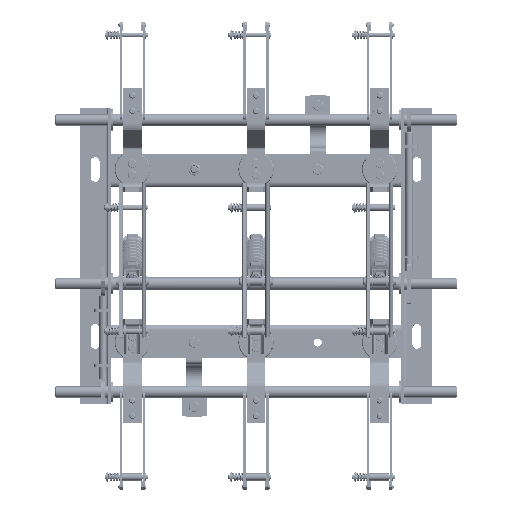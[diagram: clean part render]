
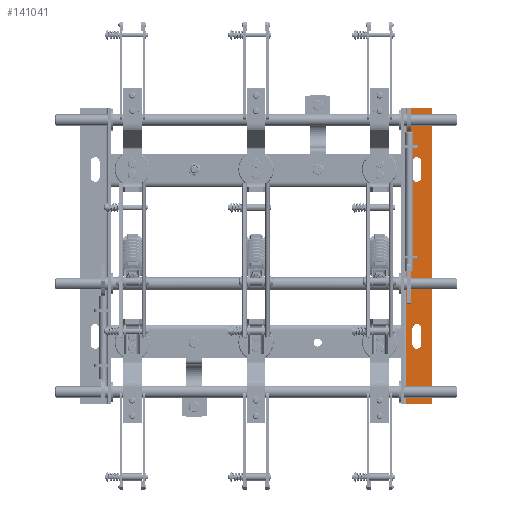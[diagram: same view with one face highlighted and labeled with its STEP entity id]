
A CAD part, top view. The second image highlights one B-rep face of the part: STEP entity #141041.
In plain terms, the highlighted planar face has unit normal (0, 0, 1).
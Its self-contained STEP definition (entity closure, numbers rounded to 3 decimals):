
#1226 = DIRECTION ( 'NONE',  ( 0., -1., 0. ) ) ;
#3660 = EDGE_CURVE ( 'NONE', #12385, #164996, #111404, .T. ) ;
#3835 = VERTEX_POINT ( 'NONE', #54979 ) ;
#4023 = DIRECTION ( 'NONE',  ( 0., 0., -1. ) ) ;
#5432 = VERTEX_POINT ( 'NONE', #128422 ) ;
#6283 = CARTESIAN_POINT ( 'NONE',  ( 261.605, 170.021, 4.004 ) ) ;
#7149 = EDGE_CURVE ( 'NONE', #61374, #93276, #169835, .T. ) ;
#7204 = DIRECTION ( 'NONE',  ( 0., 0., -1. ) ) ;
#10083 = CARTESIAN_POINT ( 'NONE',  ( 267.008, 148.003, 4.004 ) ) ;
#11485 = EDGE_LOOP ( 'NONE', ( #80760, #59271, #29826, #62548 ) ) ;
#11487 = DIRECTION ( 'NONE',  ( 0., -1., 0. ) ) ;
#12385 = VERTEX_POINT ( 'NONE', #69293 ) ;
#13760 = CARTESIAN_POINT ( 'NONE',  ( 286.208, -4.979, 4.004 ) ) ;
#15272 = VERTEX_POINT ( 'NONE', #139182 ) ;
#16227 = EDGE_CURVE ( 'NONE', #30258, #86361, #163911, .T. ) ;
#18383 = VERTEX_POINT ( 'NONE', #6283 ) ;
#20846 = EDGE_CURVE ( 'NONE', #164996, #52889, #97008, .T. ) ;
#22365 = LINE ( 'NONE', #81151, #70460 ) ;
#22393 = LINE ( 'NONE', #50694, #57897 ) ;
#25446 = LINE ( 'NONE', #107420, #159122 ) ;
#27183 = DIRECTION ( 'NONE',  ( -1., 0., 0. ) ) ;
#29826 = ORIENTED_EDGE ( 'NONE', *, *, #62565, .F. ) ;
#30258 = VERTEX_POINT ( 'NONE', #171186 ) ;
#30856 = LINE ( 'NONE', #34021, #97641 ) ;
#32546 = AXIS2_PLACEMENT_3D ( 'NONE', #153219, #73295, #166608 ) ;
#33711 = ORIENTED_EDGE ( 'NONE', *, *, #101164, .F. ) ;
#33946 = AXIS2_PLACEMENT_3D ( 'NONE', #67307, #160661, #80716 ) ;
#34021 = CARTESIAN_POINT ( 'NONE',  ( 285.008, 235.021, 4.004 ) ) ;
#34445 = EDGE_LOOP ( 'NONE', ( #133590, #157786, #109213, #44196 ) ) ;
#35788 = VECTOR ( 'NONE', #47101, 1000. ) ;
#40329 = CARTESIAN_POINT ( 'NONE',  ( 243.005, 235.021, 4.004 ) ) ;
#41682 = CARTESIAN_POINT ( 'NONE',  ( 253.008, 148.003, 4.004 ) ) ;
#42839 = EDGE_LOOP ( 'NONE', ( #96486, #111986, #150641, #33711 ) ) ;
#43366 = CARTESIAN_POINT ( 'NONE',  ( 243.005, 235.021, 4.004 ) ) ;
#44196 = ORIENTED_EDGE ( 'NONE', *, *, #129774, .T. ) ;
#44899 = VERTEX_POINT ( 'NONE', #109435 ) ;
#45198 = EDGE_CURVE ( 'NONE', #44899, #18383, #22393, .T. ) ;
#47101 = DIRECTION ( 'NONE',  ( -1., 0., 0. ) ) ;
#50514 = ORIENTED_EDGE ( 'NONE', *, *, #3660, .T. ) ;
#50694 = CARTESIAN_POINT ( 'NONE',  ( 249.005, 170.021, 4.004 ) ) ;
#52889 = VERTEX_POINT ( 'NONE', #41682 ) ;
#54979 = CARTESIAN_POINT ( 'NONE',  ( 285.008, 235.021, 4.004 ) ) ;
#57510 = VERTEX_POINT ( 'NONE', #10083 ) ;
#57897 = VECTOR ( 'NONE', #64199, 1000. ) ;
#59271 = ORIENTED_EDGE ( 'NONE', *, *, #113447, .F. ) ;
#61374 = VERTEX_POINT ( 'NONE', #152679 ) ;
#61403 = AXIS2_PLACEMENT_3D ( 'NONE', #83934, #4023, #97369 ) ;
#62112 = CARTESIAN_POINT ( 'NONE',  ( 253.008, -147.997, 4.004 ) ) ;
#62548 = ORIENTED_EDGE ( 'NONE', *, *, #158185, .F. ) ;
#62565 = EDGE_CURVE ( 'NONE', #3835, #77644, #30856, .T. ) ;
#63771 = CARTESIAN_POINT ( 'NONE',  ( 253.008, 122.003, 4.004 ) ) ;
#64199 = DIRECTION ( 'NONE',  ( 1., 0., 0. ) ) ;
#65183 = CIRCLE ( 'NONE', #163604, 7. ) ;
#65620 = EDGE_CURVE ( 'NONE', #5432, #30258, #141235, .T. ) ;
#67307 = CARTESIAN_POINT ( 'NONE',  ( 260.008, 122.003, 4.004 ) ) ;
#69293 = CARTESIAN_POINT ( 'NONE',  ( 267.008, 122.003, 4.004 ) ) ;
#70095 = EDGE_CURVE ( 'NONE', #57510, #12385, #22365, .T. ) ;
#70099 = FACE_OUTER_BOUND ( 'NONE', #11485, .T. ) ;
#70153 = LINE ( 'NONE', #62112, #105623 ) ;
#70460 = VECTOR ( 'NONE', #1226, 1000. ) ;
#71959 = DIRECTION ( 'NONE',  ( 1., 0., 0. ) ) ;
#73295 = DIRECTION ( 'NONE',  ( 0., 0., -1. ) ) ;
#75195 = LINE ( 'NONE', #150393, #142033 ) ;
#77644 = VERTEX_POINT ( 'NONE', #85334 ) ;
#80716 = DIRECTION ( 'NONE',  ( 1., 0., 0. ) ) ;
#80760 = ORIENTED_EDGE ( 'NONE', *, *, #7149, .F. ) ;
#81151 = CARTESIAN_POINT ( 'NONE',  ( 267.008, 148.003, 4.004 ) ) ;
#83934 = CARTESIAN_POINT ( 'NONE',  ( 260.008, -147.997, 4.004 ) ) ;
#85334 = CARTESIAN_POINT ( 'NONE',  ( 285.008, -244.979, 4.004 ) ) ;
#86361 = VERTEX_POINT ( 'NONE', #134243 ) ;
#87135 = CARTESIAN_POINT ( 'NONE',  ( 260.008, 148.003, 4.004 ) ) ;
#93158 = PLANE ( 'NONE',  #106159 ) ;
#93276 = VERTEX_POINT ( 'NONE', #40329 ) ;
#96486 = ORIENTED_EDGE ( 'NONE', *, *, #45198, .F. ) ;
#97008 = LINE ( 'NONE', #63771, #132590 ) ;
#97369 = DIRECTION ( 'NONE',  ( 1., 0., 0. ) ) ;
#97641 = VECTOR ( 'NONE', #140852, 1000. ) ;
#98318 = CARTESIAN_POINT ( 'NONE',  ( 261.605, 174.021, 4.004 ) ) ;
#100576 = DIRECTION ( 'NONE',  ( -1., 0., 0. ) ) ;
#101164 = EDGE_CURVE ( 'NONE', #18383, #129561, #25446, .T. ) ;
#102831 = CARTESIAN_POINT ( 'NONE',  ( 243.005, -244.979, 4.004 ) ) ;
#102861 = DIRECTION ( 'NONE',  ( 0., 1., 0. ) ) ;
#103809 = CARTESIAN_POINT ( 'NONE',  ( 253.008, 122.003, 4.004 ) ) ;
#104802 = CARTESIAN_POINT ( 'NONE',  ( 267.008, -121.997, 4.004 ) ) ;
#105422 = LINE ( 'NONE', #43366, #172228 ) ;
#105623 = VECTOR ( 'NONE', #142106, 1000. ) ;
#106159 = AXIS2_PLACEMENT_3D ( 'NONE', #13760, #107107, #27183 ) ;
#106768 = LINE ( 'NONE', #127080, #35788 ) ;
#107107 = DIRECTION ( 'NONE',  ( 0., 0., -1. ) ) ;
#107420 = CARTESIAN_POINT ( 'NONE',  ( 261.605, 173.021, 4.004 ) ) ;
#108257 = ORIENTED_EDGE ( 'NONE', *, *, #20846, .T. ) ;
#109046 = VERTEX_POINT ( 'NONE', #117437 ) ;
#109213 = ORIENTED_EDGE ( 'NONE', *, *, #16227, .T. ) ;
#109435 = CARTESIAN_POINT ( 'NONE',  ( 249.005, 170.021, 4.004 ) ) ;
#110199 = EDGE_CURVE ( 'NONE', #129561, #109046, #106768, .T. ) ;
#111404 = CIRCLE ( 'NONE', #33946, 7. ) ;
#111986 = ORIENTED_EDGE ( 'NONE', *, *, #143254, .T. ) ;
#113447 = EDGE_CURVE ( 'NONE', #77644, #61374, #149235, .T. ) ;
#114225 = CARTESIAN_POINT ( 'NONE',  ( 285.008, -244.979, 4.004 ) ) ;
#117437 = CARTESIAN_POINT ( 'NONE',  ( 249.005, 174.021, 4.004 ) ) ;
#124588 = CIRCLE ( 'NONE', #32546, 7. ) ;
#125412 = EDGE_CURVE ( 'NONE', #15272, #5432, #124588, .T. ) ;
#127080 = CARTESIAN_POINT ( 'NONE',  ( 261.605, 174.021, 4.004 ) ) ;
#127101 = DIRECTION ( 'NONE',  ( -1., 0., 0. ) ) ;
#128422 = CARTESIAN_POINT ( 'NONE',  ( 267.008, -121.997, 4.004 ) ) ;
#129561 = VERTEX_POINT ( 'NONE', #98318 ) ;
#129725 = DIRECTION ( 'NONE',  ( 0., 1., 0. ) ) ;
#129774 = EDGE_CURVE ( 'NONE', #86361, #15272, #70153, .T. ) ;
#132590 = VECTOR ( 'NONE', #102861, 1000. ) ;
#133590 = ORIENTED_EDGE ( 'NONE', *, *, #125412, .T. ) ;
#134243 = CARTESIAN_POINT ( 'NONE',  ( 253.008, -147.997, 4.004 ) ) ;
#134399 = VECTOR ( 'NONE', #129725, 1000. ) ;
#135043 = ORIENTED_EDGE ( 'NONE', *, *, #138896, .T. ) ;
#136898 = EDGE_LOOP ( 'NONE', ( #135043, #165745, #50514, #108257 ) ) ;
#136917 = FACE_BOUND ( 'NONE', #136898, .T. ) ;
#137034 = VECTOR ( 'NONE', #11487, 1000. ) ;
#138896 = EDGE_CURVE ( 'NONE', #52889, #57510, #65183, .T. ) ;
#139182 = CARTESIAN_POINT ( 'NONE',  ( 253.008, -121.997, 4.004 ) ) ;
#140852 = DIRECTION ( 'NONE',  ( 0., -1., 0. ) ) ;
#141041 = ADVANCED_FACE ( 'NONE', ( #70099, #141132, #136917, #172363 ), #93158, .F. ) ;
#141132 = FACE_BOUND ( 'NONE', #42839, .T. ) ;
#141235 = LINE ( 'NONE', #104802, #137034 ) ;
#142033 = VECTOR ( 'NONE', #163762, 1000. ) ;
#142106 = DIRECTION ( 'NONE',  ( 0., 1., 0. ) ) ;
#143254 = EDGE_CURVE ( 'NONE', #44899, #109046, #75195, .T. ) ;
#145124 = VECTOR ( 'NONE', #127101, 1000. ) ;
#147770 = DIRECTION ( 'NONE',  ( 0., 1., 0. ) ) ;
#149235 = LINE ( 'NONE', #114225, #145124 ) ;
#150393 = CARTESIAN_POINT ( 'NONE',  ( 249.005, 173.021, 4.004 ) ) ;
#150641 = ORIENTED_EDGE ( 'NONE', *, *, #110199, .F. ) ;
#152679 = CARTESIAN_POINT ( 'NONE',  ( 243.005, -244.979, 4.004 ) ) ;
#153219 = CARTESIAN_POINT ( 'NONE',  ( 260.008, -121.997, 4.004 ) ) ;
#157786 = ORIENTED_EDGE ( 'NONE', *, *, #65620, .T. ) ;
#158185 = EDGE_CURVE ( 'NONE', #93276, #3835, #105422, .T. ) ;
#159122 = VECTOR ( 'NONE', #147770, 1000. ) ;
#160661 = DIRECTION ( 'NONE',  ( 0., 0., -1. ) ) ;
#163604 = AXIS2_PLACEMENT_3D ( 'NONE', #87135, #7204, #100576 ) ;
#163762 = DIRECTION ( 'NONE',  ( 0., 1., 0. ) ) ;
#163911 = CIRCLE ( 'NONE', #61403, 7. ) ;
#164996 = VERTEX_POINT ( 'NONE', #103809 ) ;
#165745 = ORIENTED_EDGE ( 'NONE', *, *, #70095, .T. ) ;
#166608 = DIRECTION ( 'NONE',  ( -1., 0., 0. ) ) ;
#169835 = LINE ( 'NONE', #102831, #134399 ) ;
#171186 = CARTESIAN_POINT ( 'NONE',  ( 267.008, -147.997, 4.004 ) ) ;
#172228 = VECTOR ( 'NONE', #71959, 1000. ) ;
#172363 = FACE_BOUND ( 'NONE', #34445, .T. ) ;
